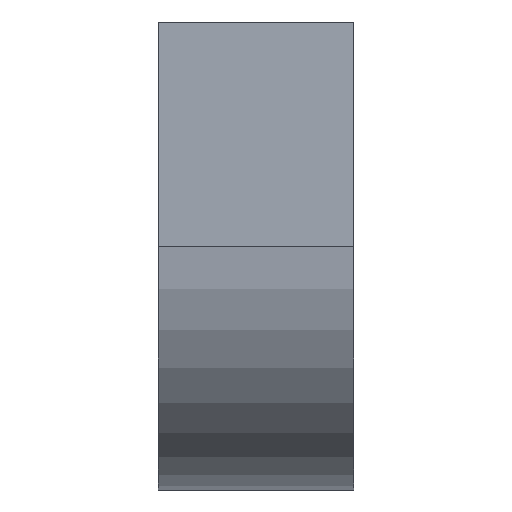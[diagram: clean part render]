
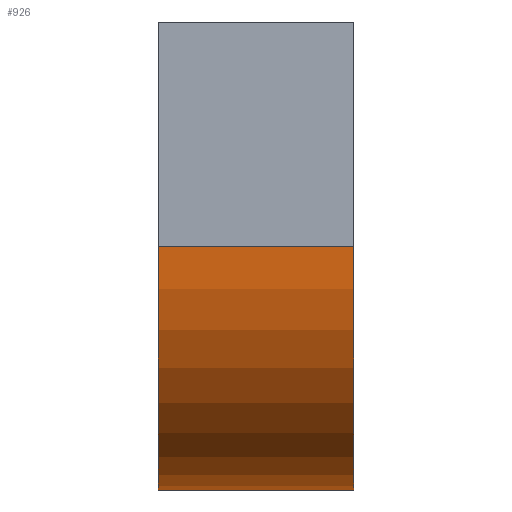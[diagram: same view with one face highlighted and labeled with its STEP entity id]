
A CAD part, front view. The second image highlights one B-rep face of the part: STEP entity #926.
In plain terms, the highlighted cylindrical face has radius 125 mm (diameter 250 mm), a partial arc.
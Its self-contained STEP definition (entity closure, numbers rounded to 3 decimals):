
#11 = CARTESIAN_POINT ( 'NONE',  ( 50., -75., -115. ) ) ;
#16 = CARTESIAN_POINT ( 'NONE',  ( -50., 50., -240. ) ) ;
#35 = EDGE_CURVE ( 'NONE', #1425, #1362, #1082, .T. ) ;
#58 = ORIENTED_EDGE ( 'NONE', *, *, #401, .F. ) ;
#59 = CARTESIAN_POINT ( 'NONE',  ( 50., 50., -240. ) ) ;
#80 = CIRCLE ( 'NONE', #1645, 125. ) ;
#104 = DIRECTION ( 'NONE',  ( -1., 0., 0. ) ) ;
#147 = DIRECTION ( 'NONE',  ( 0., 0., 1. ) ) ;
#187 = VECTOR ( 'NONE', #443, 1000. ) ;
#189 = ORIENTED_EDGE ( 'NONE', *, *, #1073, .T. ) ;
#198 = DIRECTION ( 'NONE',  ( -1., 0., 0. ) ) ;
#281 = DIRECTION ( 'NONE',  ( 1., 0., 0. ) ) ;
#304 = DIRECTION ( 'NONE',  ( 1., 0., 0. ) ) ;
#401 = EDGE_CURVE ( 'NONE', #1362, #1388, #965, .T. ) ;
#443 = DIRECTION ( 'NONE',  ( -1., 0., 0. ) ) ;
#465 = AXIS2_PLACEMENT_3D ( 'NONE', #1041, #104, #504 ) ;
#504 = DIRECTION ( 'NONE',  ( 0., 0., 1. ) ) ;
#641 = CYLINDRICAL_SURFACE ( 'NONE', #465, 125. ) ;
#667 = DIRECTION ( 'NONE',  ( 0., 0., 1. ) ) ;
#674 = CARTESIAN_POINT ( 'NONE',  ( -50., 50., -115. ) ) ;
#707 = AXIS2_PLACEMENT_3D ( 'NONE', #1573, #281, #147 ) ;
#784 = CARTESIAN_POINT ( 'NONE',  ( 50., 50., -240. ) ) ;
#791 = VECTOR ( 'NONE', #198, 1000. ) ;
#908 = ORIENTED_EDGE ( 'NONE', *, *, #35, .F. ) ;
#918 = FACE_OUTER_BOUND ( 'NONE', #1097, .T. ) ;
#926 = ADVANCED_FACE ( 'NONE', ( #918 ), #641, .T. ) ;
#929 = ORIENTED_EDGE ( 'NONE', *, *, #1089, .T. ) ;
#965 = LINE ( 'NONE', #59, #791 ) ;
#1026 = CARTESIAN_POINT ( 'NONE',  ( -50., -75., -115. ) ) ;
#1041 = CARTESIAN_POINT ( 'NONE',  ( 50., 50., -115. ) ) ;
#1054 = CARTESIAN_POINT ( 'NONE',  ( 50., -75., -115. ) ) ;
#1073 = EDGE_CURVE ( 'NONE', #1315, #1388, #80, .T. ) ;
#1082 = CIRCLE ( 'NONE', #707, 125. ) ;
#1089 = EDGE_CURVE ( 'NONE', #1425, #1315, #1598, .T. ) ;
#1097 = EDGE_LOOP ( 'NONE', ( #189, #58, #908, #929 ) ) ;
#1315 = VERTEX_POINT ( 'NONE', #1026 ) ;
#1362 = VERTEX_POINT ( 'NONE', #784 ) ;
#1388 = VERTEX_POINT ( 'NONE', #16 ) ;
#1425 = VERTEX_POINT ( 'NONE', #1054 ) ;
#1573 = CARTESIAN_POINT ( 'NONE',  ( 50., 50., -115. ) ) ;
#1598 = LINE ( 'NONE', #11, #187 ) ;
#1645 = AXIS2_PLACEMENT_3D ( 'NONE', #674, #304, #667 ) ;
